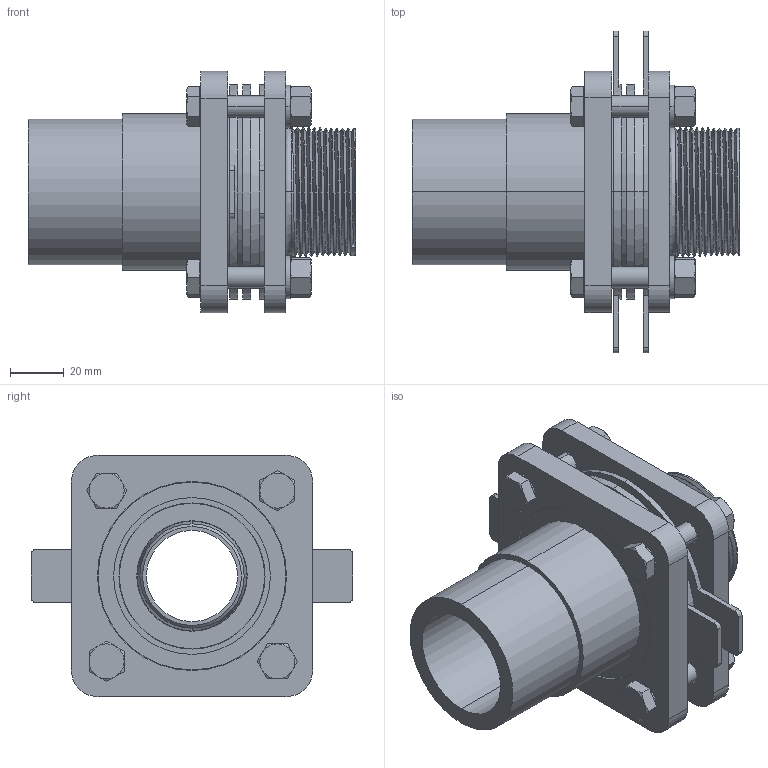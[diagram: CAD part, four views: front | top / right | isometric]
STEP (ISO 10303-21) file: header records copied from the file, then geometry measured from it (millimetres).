
FILE_DESCRIPTION (( 'STEP AP203' ), '1' );
FILE_NAME ('KP_C16-54M.step', '2011-08-08T12:00:37', ( '' ), ( '' ), 'SwSTEP 2.0', 'SolidWorks 2011', '' );
FILE_SCHEMA (( 'CONFIG_CONTROL_DESIGN' ));
Length unit declared in the file: millimetre
Products named in the file (1): KP_C16-54M
Bounding box: 122 x 120 x 90 mm (x, y, z)
Volume: 265949 mm3; surface area: 104124.9 mm2
Topology: 1 solids, 1 shells, 411 faces, 927 edges, 563 vertices
Faces by surface type: plane 147, cone 124, cylinder 115, torus 22, bspline 3
Entity records: 17510 total; most frequent: CARTESIAN_POINT 8328, DIRECTION 1938, ORIENTED_EDGE 1854, EDGE_CURVE 927, AXIS2_PLACEMENT_3D 800, VERTEX_POINT 563, EDGE_LOOP 466, FACE_OUTER_BOUND 411
